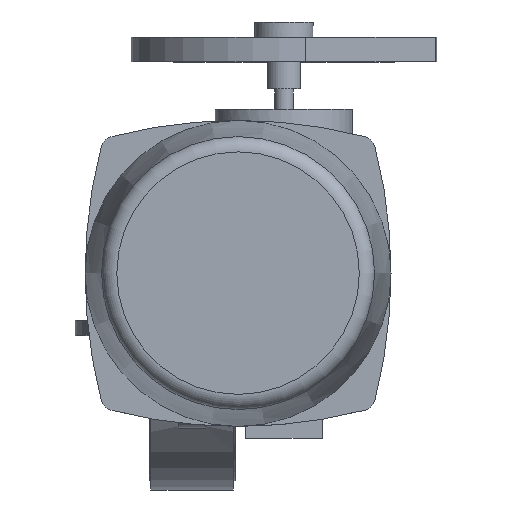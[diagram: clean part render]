
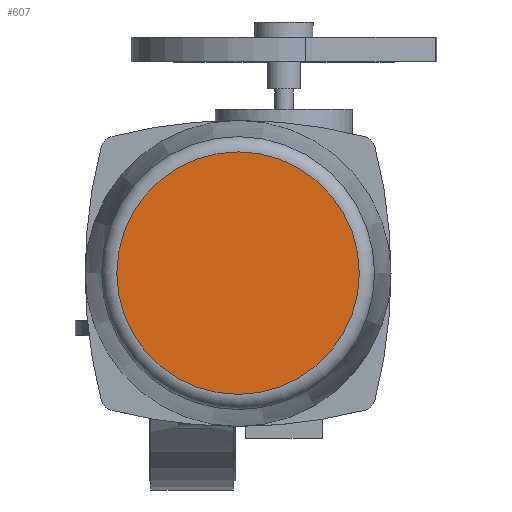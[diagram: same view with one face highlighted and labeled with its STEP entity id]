
A CAD part, top view. The second image highlights one B-rep face of the part: STEP entity #607.
In plain terms, the highlighted planar face has unit normal (0, 0, 1).
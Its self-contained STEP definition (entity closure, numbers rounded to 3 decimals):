
#607=ADVANCED_FACE('',(#6770),#6772,.T.);
#6770=FACE_BOUND('',#6771,.T.);
#6771=EDGE_LOOP('',(#11989));
#6772=PLANE('',#6773);
#6773=AXIS2_PLACEMENT_3D('',#6774,#6775,#6776);
#6774=CARTESIAN_POINT('',(30.,35.,463.));
#6775=DIRECTION('',(0.,0.,1.));
#6776=DIRECTION('',(1.,0.,0.));
#11989=ORIENTED_EDGE('',*,*,#15766,.T.);
#15766=EDGE_CURVE('',#17843,#17843,#17844,.T.);
#17843=VERTEX_POINT('',#21541);
#17844=CIRCLE('',#21542,79.288);
#21541=CARTESIAN_POINT('',(109.288,35.,463.));
#21542=AXIS2_PLACEMENT_3D('',#21543,#21544,#21545);
#21543=CARTESIAN_POINT('',(30.,35.,463.));
#21544=DIRECTION('',(0.,0.,1.));
#21545=DIRECTION('',(1.,0.,0.));
